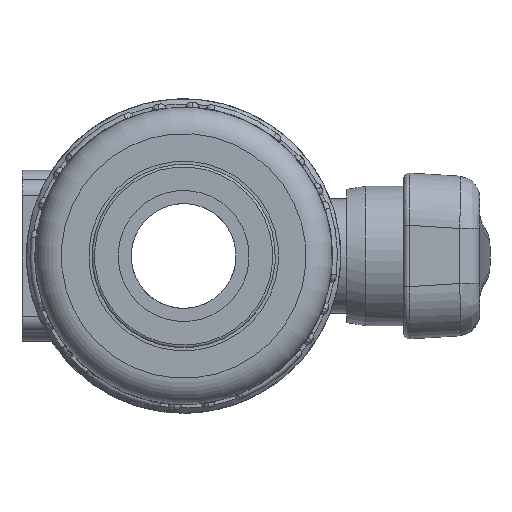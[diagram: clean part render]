
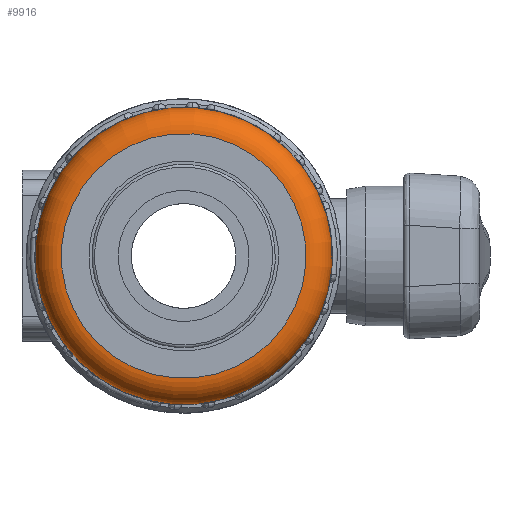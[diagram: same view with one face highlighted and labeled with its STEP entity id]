
A CAD part, front view. The second image highlights one B-rep face of the part: STEP entity #9916.
In plain terms, the highlighted toroidal (fillet/blend) face has major radius 23.35 mm and minor radius 5 mm.
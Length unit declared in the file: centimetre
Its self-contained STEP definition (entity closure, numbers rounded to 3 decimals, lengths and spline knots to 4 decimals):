
#1927=TOROIDAL_SURFACE('',#10611,2.335,0.5);
#1954=FACE_BOUND('',#2807,.T.);
#2213=FACE_OUTER_BOUND('',#2806,.T.);
#2806=EDGE_LOOP('',(#7024));
#2807=EDGE_LOOP('',(#7025));
#3414=CIRCLE('',#10609,2.335);
#3416=CIRCLE('',#10612,2.835);
#4037=VERTEX_POINT('',#37044);
#4039=VERTEX_POINT('',#37049);
#5154=EDGE_CURVE('',#4037,#4037,#3414,.T.);
#5156=EDGE_CURVE('',#4039,#4039,#3416,.T.);
#7024=ORIENTED_EDGE('',*,*,#5156,.F.);
#7025=ORIENTED_EDGE('',*,*,#5154,.T.);
#9916=ADVANCED_FACE('',(#2213,#1954),#1927,.T.);
#10609=AXIS2_PLACEMENT_3D('',#37045,#12037,#12038);
#10611=AXIS2_PLACEMENT_3D('',#37048,#12041,#12042);
#10612=AXIS2_PLACEMENT_3D('',#37050,#12043,#12044);
#12037=DIRECTION('center_axis',(0.,1.,0.));
#12038=DIRECTION('ref_axis',(-0.413,0.,-0.911));
#12041=DIRECTION('center_axis',(0.,1.,0.));
#12042=DIRECTION('ref_axis',(0.911,0.,-0.413));
#12043=DIRECTION('center_axis',(0.,1.,0.));
#12044=DIRECTION('ref_axis',(-0.413,0.,-0.911));
#37044=CARTESIAN_POINT('',(0.9644,-3.5,2.1265));
#37045=CARTESIAN_POINT('Origin',(0.,-3.5,0.));
#37048=CARTESIAN_POINT('Origin',(0.,-3.,0.));
#37049=CARTESIAN_POINT('',(1.1709,-3.,2.5819));
#37050=CARTESIAN_POINT('Origin',(0.,-3.,0.));
